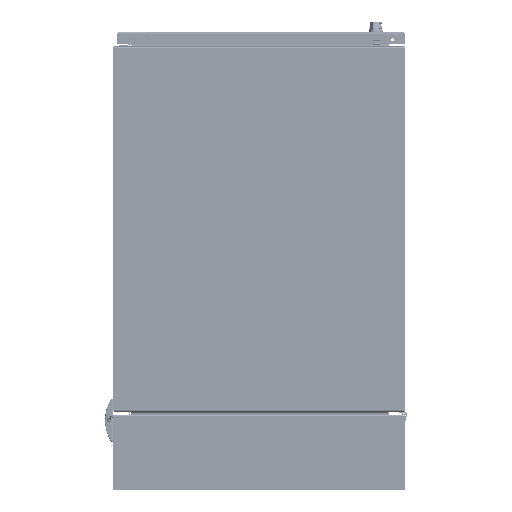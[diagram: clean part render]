
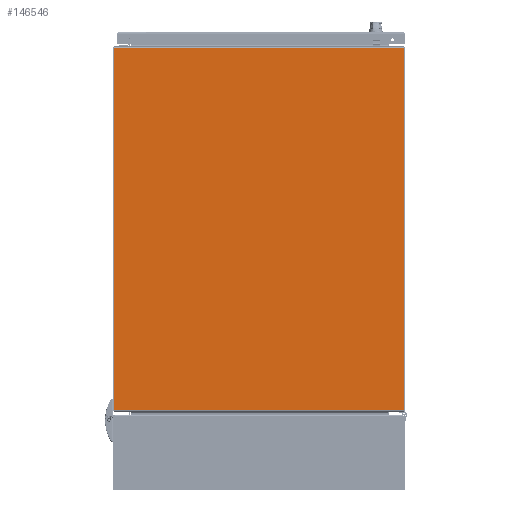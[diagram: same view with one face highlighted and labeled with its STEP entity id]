
A CAD part, front view. The second image highlights one B-rep face of the part: STEP entity #146546.
In plain terms, the highlighted planar face has unit normal (0, -1, 0).
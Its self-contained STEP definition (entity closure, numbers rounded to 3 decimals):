
#22904 = LINE ( 'NONE', #42277, #22912 ) ;
#22907 = VECTOR ( 'NONE', #42242, 1000. ) ;
#22911 = LINE ( 'NONE', #42243, #22907 ) ;
#22912 = VECTOR ( 'NONE', #42262, 1000. ) ;
#22931 = LINE ( 'NONE', #42041, #22937 ) ;
#22936 = VECTOR ( 'NONE', #42012, 1000. ) ;
#22937 = VECTOR ( 'NONE', #42030, 1000. ) ;
#22938 = LINE ( 'NONE', #42015, #22936 ) ;
#24812 = EDGE_CURVE ( 'NONE', #73804, #73818, #22904, .T. ) ;
#24816 = EDGE_CURVE ( 'NONE', #73793, #73776, #22911, .T. ) ;
#24850 = EDGE_CURVE ( 'NONE', #73804, #73776, #22931, .T. ) ;
#24854 = EDGE_CURVE ( 'NONE', #73793, #73818, #22938, .T. ) ;
#38289 = PLANE ( 'NONE',  #43167 ) ;
#38314 = CARTESIAN_POINT ( 'NONE',  ( 298.171, 0., 375. ) ) ;
#38334 = DIRECTION ( 'NONE',  ( 0., 1., 0. ) ) ;
#38337 = DIRECTION ( 'NONE',  ( 0., 0., 1. ) ) ;
#40271 = FACE_OUTER_BOUND ( 'NONE', #142840, .T. ) ;
#42012 = DIRECTION ( 'NONE',  ( 1., 0., 0. ) ) ;
#42015 = CARTESIAN_POINT ( 'NONE',  ( -298.171, 0., -370.885 ) ) ;
#42030 = DIRECTION ( 'NONE',  ( -1., 0., 0. ) ) ;
#42041 = CARTESIAN_POINT ( 'NONE',  ( 298.171, 0., 370.885 ) ) ;
#42242 = DIRECTION ( 'NONE',  ( 0., 0., 1. ) ) ;
#42243 = CARTESIAN_POINT ( 'NONE',  ( -298.171, 0., -375. ) ) ;
#42262 = DIRECTION ( 'NONE',  ( 0., 0., -1. ) ) ;
#42277 = CARTESIAN_POINT ( 'NONE',  ( 298.171, 0., -375. ) ) ;
#43167 = AXIS2_PLACEMENT_3D ( 'NONE', #38314, #38334, #38337 ) ;
#73776 = VERTEX_POINT ( 'NONE', #136034 ) ;
#73793 = VERTEX_POINT ( 'NONE', #136045 ) ;
#73804 = VERTEX_POINT ( 'NONE', #136075 ) ;
#73818 = VERTEX_POINT ( 'NONE', #136085 ) ;
#107939 = ORIENTED_EDGE ( 'NONE', *, *, #24854, .T. ) ;
#107940 = ORIENTED_EDGE ( 'NONE', *, *, #24812, .F. ) ;
#107941 = ORIENTED_EDGE ( 'NONE', *, *, #24850, .T. ) ;
#107942 = ORIENTED_EDGE ( 'NONE', *, *, #24816, .F. ) ;
#136034 = CARTESIAN_POINT ( 'NONE',  ( -298.171, 0., 370.885 ) ) ;
#136045 = CARTESIAN_POINT ( 'NONE',  ( -298.171, 0., -370.885 ) ) ;
#136075 = CARTESIAN_POINT ( 'NONE',  ( 298.171, 0., 370.885 ) ) ;
#136085 = CARTESIAN_POINT ( 'NONE',  ( 298.171, 0., -370.885 ) ) ;
#142840 = EDGE_LOOP ( 'NONE', ( #107939, #107940, #107941, #107942 ) ) ;
#146546 = ADVANCED_FACE ( 'NONE', ( #40271 ), #38289, .F. ) ;
